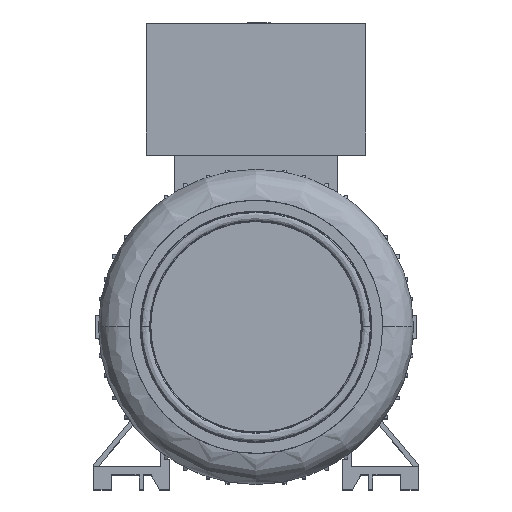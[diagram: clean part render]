
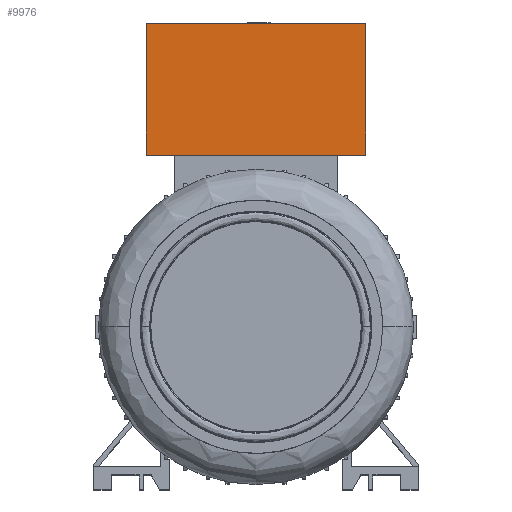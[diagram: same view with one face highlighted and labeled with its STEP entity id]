
A CAD part, top view. The second image highlights one B-rep face of the part: STEP entity #9976.
In plain terms, the highlighted planar face has unit normal (0, 0, 1).
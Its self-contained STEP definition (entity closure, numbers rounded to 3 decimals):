
#1269 = VECTOR ( 'NONE', #7836, 1000. ) ;
#3040 = VERTEX_POINT ( 'NONE', #5305 ) ;
#3693 = VECTOR ( 'NONE', #15199, 1000. ) ;
#4088 = LINE ( 'NONE', #7255, #3693 ) ;
#4244 = EDGE_CURVE ( 'NONE', #16973, #3040, #4088, .T. ) ;
#4335 = EDGE_CURVE ( 'NONE', #16973, #6701, #16104, .T. ) ;
#4769 = CARTESIAN_POINT ( 'NONE',  ( 0., 106., 41.5 ) ) ;
#5305 = CARTESIAN_POINT ( 'NONE',  ( -67.5, 187., 41.5 ) ) ;
#6701 = VERTEX_POINT ( 'NONE', #9828 ) ;
#6994 = LINE ( 'NONE', #30296, #22168 ) ;
#7255 = CARTESIAN_POINT ( 'NONE',  ( -67.5, -84.919, 41.5 ) ) ;
#7836 = DIRECTION ( 'NONE',  ( 1., 0., 0. ) ) ;
#8310 = AXIS2_PLACEMENT_3D ( 'NONE', #10504, #18218, #10395 ) ;
#9207 = CARTESIAN_POINT ( 'NONE',  ( 67.5, 187., 41.5 ) ) ;
#9289 = VECTOR ( 'NONE', #20322, 1000. ) ;
#9465 = FACE_OUTER_BOUND ( 'NONE', #26599, .T. ) ;
#9828 = CARTESIAN_POINT ( 'NONE',  ( 67.5, 106., 41.5 ) ) ;
#9976 = ADVANCED_FACE ( 'NONE', ( #9465 ), #28098, .T. ) ;
#10395 = DIRECTION ( 'NONE',  ( 1., 0., 0. ) ) ;
#10504 = CARTESIAN_POINT ( 'NONE',  ( -67.5, -84.919, 41.5 ) ) ;
#10523 = EDGE_CURVE ( 'NONE', #18930, #6701, #6994, .T. ) ;
#11983 = ORIENTED_EDGE ( 'NONE', *, *, #4335, .T. ) ;
#12422 = ORIENTED_EDGE ( 'NONE', *, *, #4244, .F. ) ;
#14851 = CARTESIAN_POINT ( 'NONE',  ( -67.5, 106., 41.5 ) ) ;
#15183 = DIRECTION ( 'NONE',  ( 0., -1., 0. ) ) ;
#15199 = DIRECTION ( 'NONE',  ( 0., 1., 0. ) ) ;
#16104 = LINE ( 'NONE', #4769, #9289 ) ;
#16973 = VERTEX_POINT ( 'NONE', #14851 ) ;
#17994 = ORIENTED_EDGE ( 'NONE', *, *, #10523, .F. ) ;
#18041 = EDGE_CURVE ( 'NONE', #3040, #18930, #21731, .T. ) ;
#18218 = DIRECTION ( 'NONE',  ( 0., 0., 1. ) ) ;
#18930 = VERTEX_POINT ( 'NONE', #9207 ) ;
#19743 = ORIENTED_EDGE ( 'NONE', *, *, #18041, .F. ) ;
#20322 = DIRECTION ( 'NONE',  ( 1., 0., 0. ) ) ;
#21731 = LINE ( 'NONE', #25455, #1269 ) ;
#22168 = VECTOR ( 'NONE', #15183, 1000. ) ;
#25455 = CARTESIAN_POINT ( 'NONE',  ( -67.5, 187., 41.5 ) ) ;
#26599 = EDGE_LOOP ( 'NONE', ( #12422, #11983, #17994, #19743 ) ) ;
#28098 = PLANE ( 'NONE',  #8310 ) ;
#30296 = CARTESIAN_POINT ( 'NONE',  ( 67.5, -84.919, 41.5 ) ) ;
